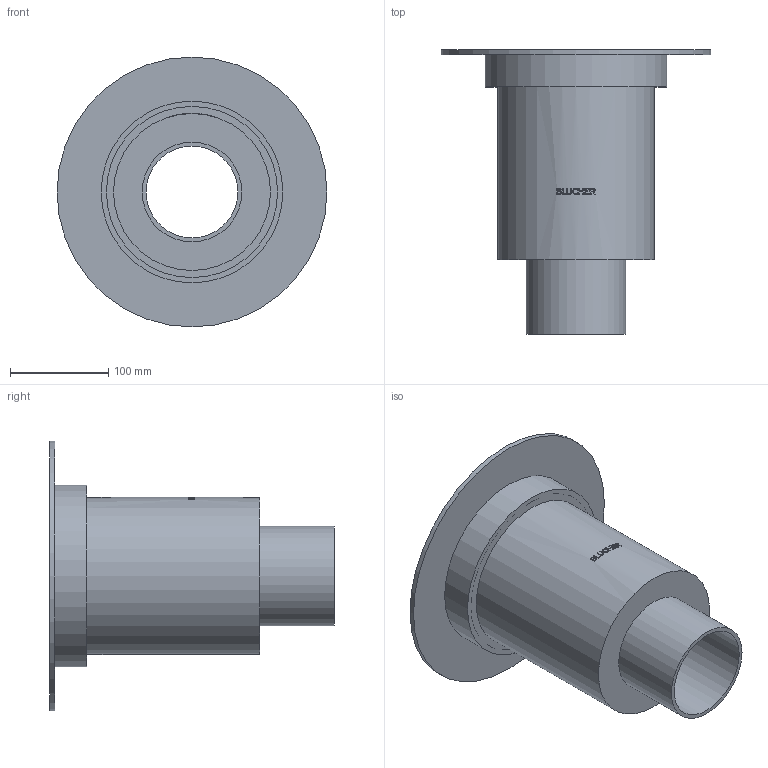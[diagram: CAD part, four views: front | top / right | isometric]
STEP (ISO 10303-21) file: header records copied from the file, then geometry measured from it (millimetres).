
FILE_DESCRIPTION((''),'2;1');
FILE_NAME('C:\Drawings\3D_CAD_Models\Blucher\BFD_Floor Drains_Complete_091119\BFD-500\WebsiteFiles\3D\STEP\BFD-514.stp','2009-11-30T08:54:19',('hofmansp'),(''),'Autodesk Inventor 2010','Autodesk Inventor 2010','');
FILE_SCHEMA(('AUTOMOTIVE_DESIGN { 1 0 10303 214 1 1 1 1 }'));
Length unit declared in the file: inch
Products named in the file (1): BFD-514
Bounding box: 275 x 290 x 275 mm (x, y, z)
Volume: 575995.9 mm3; surface area: 371665.6 mm2
Topology: 1 solids, 1 shells, 116 faces, 291 edges, 194 vertices
Faces by surface type: plane 63, bspline 34, cylinder 19
Full cylindrical faces by diameter (mm): 93.6 x1, 101.6 x1, 156.5 x1, 160 x1, 174.5 x1, 185.2 x1, 232 x1, 233 x1, 275 x1
Entity records: 14066 total; most frequent: CARTESIAN_POINT 11552, ORIENTED_EDGE 564, DIRECTION 388, EDGE_CURVE 282, VERTEX_POINT 194, EDGE_LOOP 144, AXIS2_PLACEMENT_3D 136, FACE_OUTER_BOUND 116
